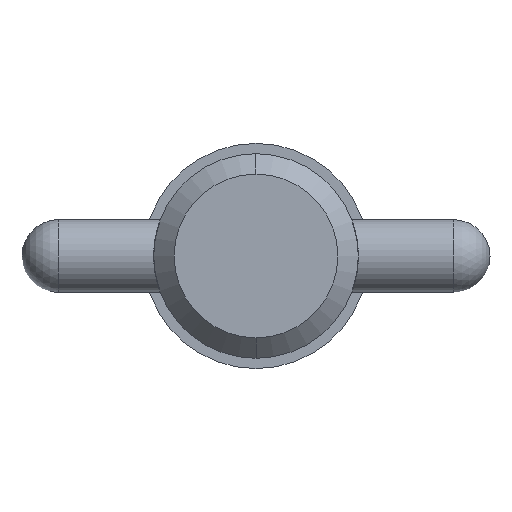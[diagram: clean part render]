
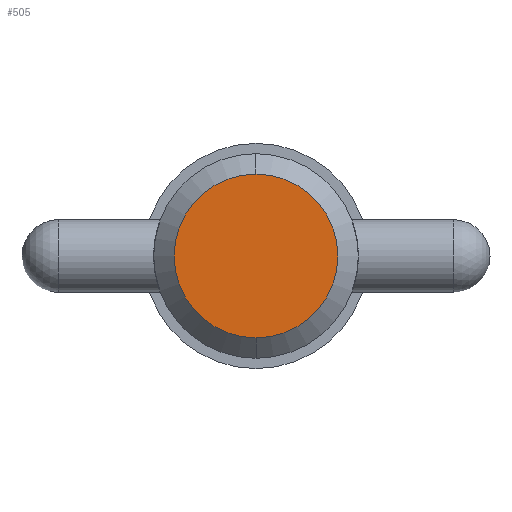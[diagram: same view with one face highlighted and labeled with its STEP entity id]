
A CAD part, left-side view. The second image highlights one B-rep face of the part: STEP entity #505.
In plain terms, the highlighted planar face has unit normal (-1, 0, 0).
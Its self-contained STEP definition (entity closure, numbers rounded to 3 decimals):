
#18 = DIRECTION ( 'NONE',  ( 1., 0., 0. ) ) ;
#149 = DIRECTION ( 'NONE',  ( -1., 0., 0. ) ) ;
#186 = VERTEX_POINT ( 'NONE', #981 ) ;
#208 = ORIENTED_EDGE ( 'NONE', *, *, #900, .F. ) ;
#293 = CARTESIAN_POINT ( 'NONE',  ( 0., 0., 4.444 ) ) ;
#308 = CARTESIAN_POINT ( 'NONE',  ( 0., 0., 0. ) ) ;
#407 = DIRECTION ( 'NONE',  ( 1., 0., 0. ) ) ;
#473 = CARTESIAN_POINT ( 'NONE',  ( 0., 0., 0. ) ) ;
#478 = FACE_OUTER_BOUND ( 'NONE', #897, .T. ) ;
#505 = ADVANCED_FACE ( 'NONE', ( #478 ), #873, .T. ) ;
#575 = AXIS2_PLACEMENT_3D ( 'NONE', #308, #407, #727 ) ;
#652 = CARTESIAN_POINT ( 'NONE',  ( 0., 0., 0. ) ) ;
#658 = DIRECTION ( 'NONE',  ( 0., 0., -1. ) ) ;
#673 = VERTEX_POINT ( 'NONE', #293 ) ;
#710 = DIRECTION ( 'NONE',  ( 0., 0., 1. ) ) ;
#727 = DIRECTION ( 'NONE',  ( 0., 0., -1. ) ) ;
#785 = AXIS2_PLACEMENT_3D ( 'NONE', #473, #149, #710 ) ;
#873 = PLANE ( 'NONE',  #785 ) ;
#897 = EDGE_LOOP ( 'NONE', ( #208, #928 ) ) ;
#900 = EDGE_CURVE ( 'NONE', #186, #673, #1021, .T. ) ;
#928 = ORIENTED_EDGE ( 'NONE', *, *, #989, .F. ) ;
#973 = AXIS2_PLACEMENT_3D ( 'NONE', #652, #18, #658 ) ;
#981 = CARTESIAN_POINT ( 'NONE',  ( 0., 0., -4.444 ) ) ;
#989 = EDGE_CURVE ( 'NONE', #673, #186, #1037, .T. ) ;
#1021 = CIRCLE ( 'NONE', #575, 4.444 ) ;
#1037 = CIRCLE ( 'NONE', #973, 4.444 ) ;
